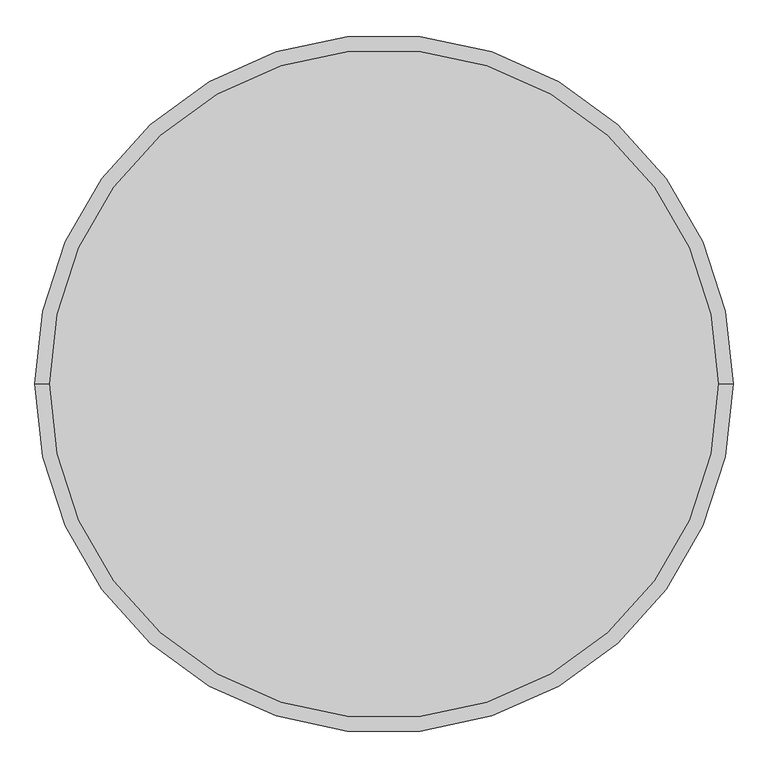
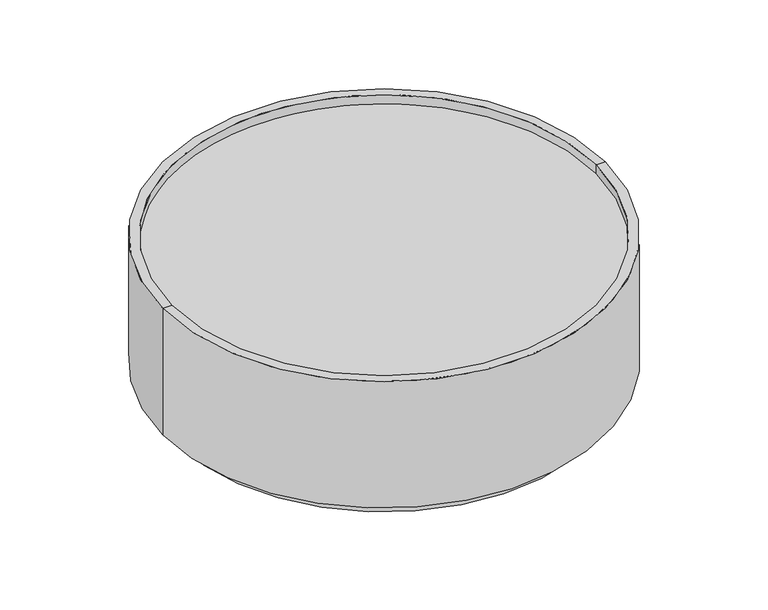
"""IFC4 building model written with IfcOpenShell, lengths in millimetres: flow terminal geometry, Ofuro Tub Round : Ofuro Tub Round."""

from ifc_helpers import new_model, si_unit, point, frame, origin, origin_2d, place, context, project, spatial, polyline, circle_curve, trimmed, segment, composite_curve, outline, extrude, source, transform, mapped, element, save
from ifc_brep_helpers import plane_surface, cylinder_surface, revolved_surface, advanced_brep


def flow_terminal_bd86caa1(model_context):
    return source(origin(), model_context, "Body", "SolidModel", [
        advanced_brep(
        [(1168.4, 0.0, 127.0), (-1168.4, 0.0, 127.0), (0.0, 0.0, 127.0), (1168.4, 0.0, 812.8), (-1168.4, 0.0, 812.8), (1219.2, 0.0, 812.8), (-1219.2, 0.0, 812.8), (1219.2, 0.0, 76.2), (-1219.2, 0.0, 76.2), (0.0, 0.0, 76.2)],
        [
            (0, 1, circle_curve(frame((0.0, 0.0, 127.0), z_axis=(0.0, 0.0, 1.0), x_axis=(-1.0, 0.0, 0.0)), 1168.4)),
            (1, 2),
            (2, 0),
            (1, 0, circle_curve(frame((0.0, 0.0, 127.0), z_axis=(0.0, 0.0, 1.0), x_axis=(-1.0, 0.0, 0.0)), 1168.4)),
            (3, 4, circle_curve(frame((0.0, 0.0, 812.8), z_axis=(0.0, 0.0, 1.0), x_axis=(-1.0, 0.0, 0.0)), 1168.4)),
            (4, 1),
            (0, 3),
            (4, 3, circle_curve(frame((0.0, 0.0, 812.8), z_axis=(0.0, 0.0, 1.0), x_axis=(-1.0, 0.0, 0.0)), 1168.4)),
            (5, 6, circle_curve(frame((0.0, 0.0, 812.8), z_axis=(0.0, 0.0, 1.0), x_axis=(-1.0, 0.0, 0.0)), 1219.2)),
            (6, 4),
            (3, 5),
            (6, 5, circle_curve(frame((0.0, 0.0, 812.8), z_axis=(0.0, 0.0, 1.0), x_axis=(-1.0, 0.0, 0.0)), 1219.2)),
            (7, 8, circle_curve(frame((0.0, 0.0, 76.2), z_axis=(0.0, 0.0, 1.0), x_axis=(-1.0, 0.0, 0.0)), 1219.2)),
            (8, 6),
            (5, 7),
            (8, 7, circle_curve(frame((0.0, 0.0, 76.2), z_axis=(0.0, 0.0, 1.0), x_axis=(-1.0, 0.0, 0.0)), 1219.2)),
            (9, 8),
            (7, 9),
        ],
        [
            plane_surface(frame((0.0, 0.0, 127.0), z_axis=(0.0, 0.0, 1.0), x_axis=(-1.0, 0.0, 0.0))),
            revolved_surface(polyline([(-1168.4, 0.0, 127.0), (-1168.4, 0.0, 812.8)]), (0.0, 0.0, 1116.3808), (0.0, 0.0, -1.0)),
            plane_surface(frame((0.0, 0.0, 812.8), z_axis=(0.0, 0.0, 1.0), x_axis=(-1.0, 0.0, 0.0))),
            cylinder_surface(frame((0.0, 0.0, 1116.3808), z_axis=(0.0, 0.0, -1.0), x_axis=(-1.0, 0.0, 0.0)), 1219.2),
            plane_surface(frame((0.0, 0.0, 76.2), z_axis=(0.0, 0.0, -1.0), x_axis=(-1.0, 0.0, 0.0))),
        ],
        [
            (0, [[1, 2, 3]]),
            (0, [[4, -3, -2]]),
            (1, [[5, 6, -1, 7]]),
            (1, [[8, -7, -4, -6]]),
            (2, [[9, 10, -5, 11]]),
            (2, [[12, -11, -8, -10]]),
            (3, [[13, 14, -9, 15]]),
            (3, [[16, -15, -12, -14]]),
            (4, [[17, -13, 18]]),
            (4, [[-18, -16, -17]]),
        ],
    ),
        advanced_brep(
        [(1143.0, 0.0, 76.2), (-1143.0, 0.0, 76.2), (0.0, 0.0, 76.2), (1143.0, 0.0, 0.0), (-1143.0, 0.0, 0.0), (0.0, 0.0, 0.0)],
        [
            (0, 1, circle_curve(frame((0.0, 0.0, 76.2), z_axis=(0.0, 0.0, 1.0), x_axis=(-1.0, 0.0, 0.0)), 1143.0)),
            (1, 2),
            (2, 0),
            (1, 0, circle_curve(frame((0.0, 0.0, 76.2), z_axis=(0.0, 0.0, 1.0), x_axis=(-1.0, 0.0, 0.0)), 1143.0)),
            (3, 4, circle_curve(frame((0.0, 0.0, 0.0), z_axis=(0.0, 0.0, 1.0), x_axis=(-1.0, 0.0, 0.0)), 1143.0)),
            (4, 1),
            (0, 3),
            (4, 3, circle_curve(frame((0.0, 0.0, 0.0), z_axis=(0.0, 0.0, 1.0), x_axis=(-1.0, 0.0, 0.0)), 1143.0)),
            (5, 4),
            (3, 5),
        ],
        [
            plane_surface(frame((0.0, 0.0, 76.2), z_axis=(0.0, 0.0, 1.0), x_axis=(-1.0, 0.0, 0.0))),
            cylinder_surface(frame((0.0, 0.0, 303.8856), z_axis=(0.0, 0.0, -1.0), x_axis=(-1.0, 0.0, 0.0)), 1143.0),
            plane_surface(frame((0.0, 0.0, 0.0), z_axis=(0.0, 0.0, -1.0), x_axis=(-1.0, 0.0, 0.0))),
        ],
        [
            (0, [[1, 2, 3]]),
            (0, [[4, -3, -2]]),
            (1, [[5, 6, -1, 7]]),
            (1, [[8, -7, -4, -6]]),
            (2, [[9, -5, 10]]),
            (2, [[-10, -8, -9]]),
        ],
    ),
        extrude(outline(composite_curve([segment(trimmed(circle_curve(origin_2d(), 1168.4), [point((-1168.4, 0.0))], [point((1168.4, 0.0))], False, "CARTESIAN"), True, "CONTINUOUS"), segment(trimmed(circle_curve(origin_2d(), 1168.4), [point((1168.4, 0.0))], [point((-1168.4, 0.0))], False, "CARTESIAN"), True, "CONTINUOUS")], self_intersect=False)), frame((0.0, 0.0, 127.0), z_axis=(0.0, 0.0, 1.0), x_axis=(1.0, 0.0, 0.0)), (0.0, 0.0, 1.0), 635.0),
    ])


if __name__ == "__main__":
    model = new_model("IFC4")
    model_context = context("Model", 3, world=origin())
    ifc_project = project(units=[si_unit("LENGTHUNIT", "METRE", prefix="MILLI")], contexts=[model_context])
    site = spatial("IfcSite", under=ifc_project)
    building = spatial("IfcBuilding", under=site)
    placement = place(None, origin())
    flow_terminal_shape = flow_terminal_bd86caa1(model_context)
    element("IfcFlowTerminal", 1, ObjectType="Ofuro Tub Round : Ofuro Tub Round", at=placement, inside=building, context=model_context, shape_type="MappedRepresentation", body=[
        mapped(flow_terminal_shape, transform((0.0, 0.0, 0.0), x_axis=(1.0, 0.0, 0.0), y_axis=(0.0, 1.0, 0.0), z_axis=(0.0, 0.0, 1.0))),
    ])
    save(model, "model.ifc")
